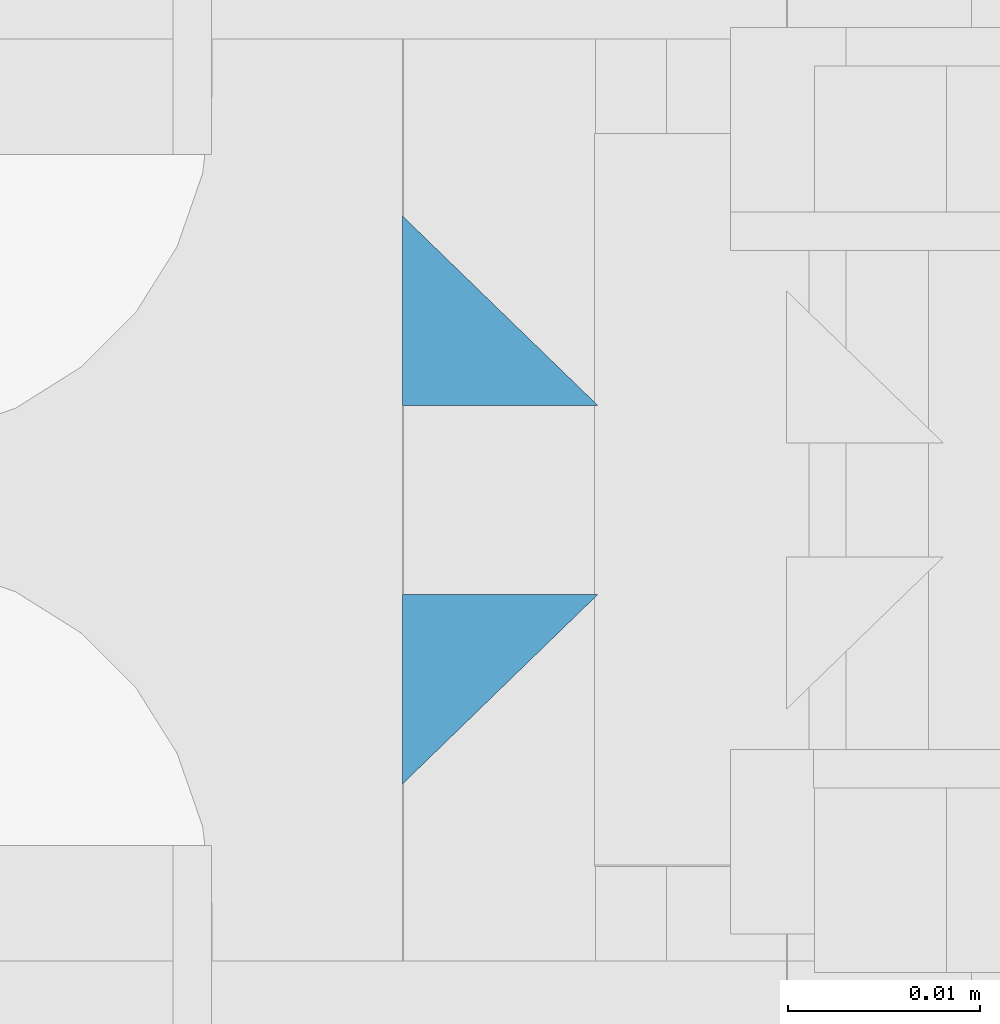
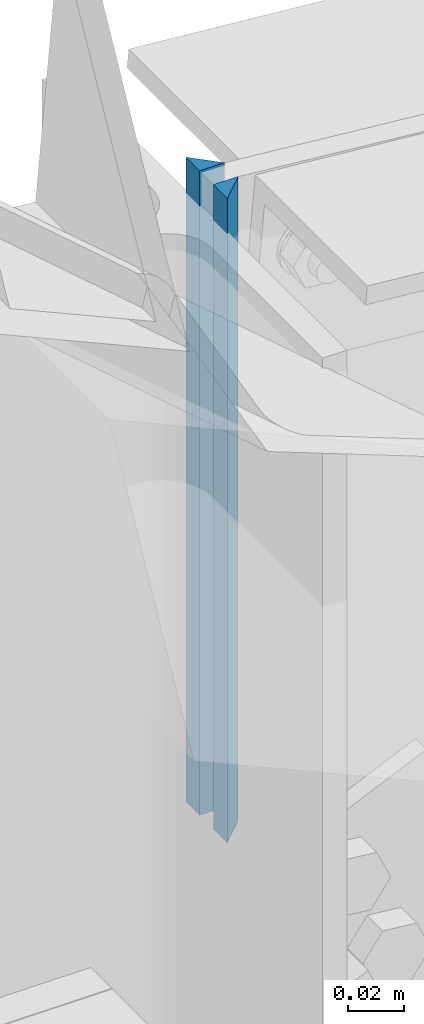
# One storey, part 50 of 251: 2 fasteners.
"""IFC4 building model written with IfcOpenShell, lengths in metres."""

from ifc_helpers import new_model, si_unit, frame, origin_with_axes, place, context, project, spatial, polyline, outline, extrude, type_object, element, save


model = new_model("IFC4")

# Units and contexts
model_context = context("Model", 3, precision=1e-05, world=origin_with_axes())
ifc_project = project(units=[si_unit("LENGTHUNIT", "METRE"), si_unit("AREAUNIT", "SQUARE_METRE"), si_unit("VOLUMEUNIT", "CUBIC_METRE"), si_unit("MASSUNIT", "GRAM", prefix="KILO"), si_unit("TIMEUNIT", "SECOND"), si_unit("PLANEANGLEUNIT", "RADIAN"), si_unit("SOLIDANGLEUNIT", "STERADIAN"), si_unit("THERMODYNAMICTEMPERATUREUNIT", "DEGREE_CELSIUS")], contexts=[model_context])

# Site, building, storey
placement_1 = place(None, origin_with_axes())
site = spatial("IfcSite", under=ifc_project, at=placement_1, Name="Italia", CompositionType="ELEMENT")
building = spatial("IfcBuilding", under=site, at=placement_1, Name="Deposito", CompositionType="ELEMENT")
storey = spatial("IfcBuildingStorey", under=building, at=placement_1, Name="Storey 0", CompositionType="ELEMENT", Elevation=0.0)

# Fasteners
fastener_type_1 = type_object("IfcFastenerType", Name="Reticolare 6", PredefinedType="WELD")
placement_2 = place(placement_1, origin_with_axes())
fastener_1_placement = place(placement_2, origin_with_axes())
element("IfcFastener", 1, at=fastener_1_placement, inside=storey, type_object=fastener_type_1, Name="Reticolare 6", context=model_context, shape_type="SweptSolid", body=[
    extrude(outline(polyline([(0.0, 0.0), (0.00986862, 0.0101733), (0.00986862, 0.0), (0.0, 0.0)])), frame((6.14495, 19.9852, 7.23455), z_axis=(0.0, 0.0, -1.0), x_axis=(0.0, 1.0, 0.0)), (0.0, 0.0, 1.0), 0.2803),
])
fastener_type_2 = type_object("IfcFastenerType", Name="Reticolare 6", PredefinedType="WELD")
fastener_2_placement = place(placement_2, origin_with_axes())
element("IfcFastener", 2, at=fastener_2_placement, inside=storey, type_object=fastener_type_2, Name="Reticolare 6", context=model_context, shape_type="SweptSolid", body=[
    extrude(outline(polyline([(0.0, 0.0), (-0.00986862, -0.0101733), (-0.00986862, 0.0), (0.0, 0.0)])), frame((6.14495, 20.0148, 6.95425), z_axis=(0.0, 0.0, 1.0), x_axis=(0.0, 1.0, 0.0)), (0.0, 0.0, 1.0), 0.2803),
])

save(model, "model.ifc")
